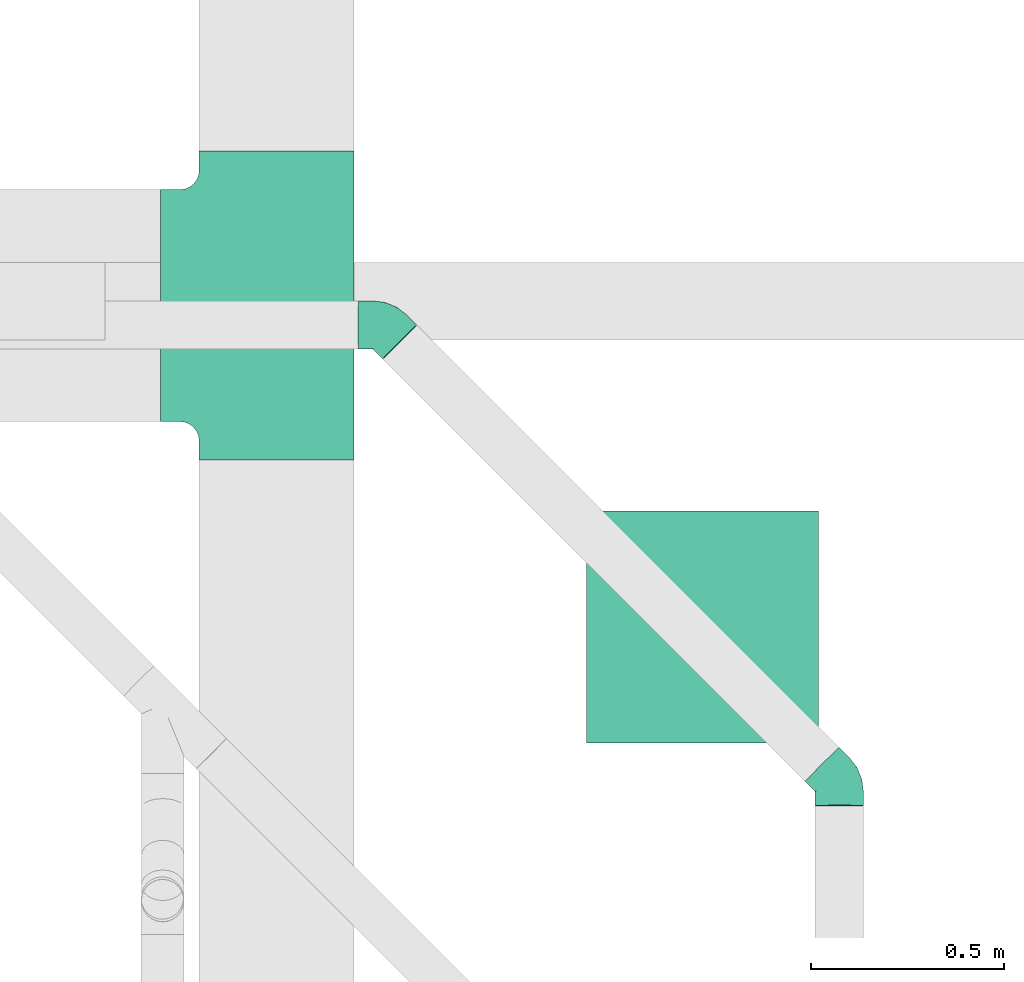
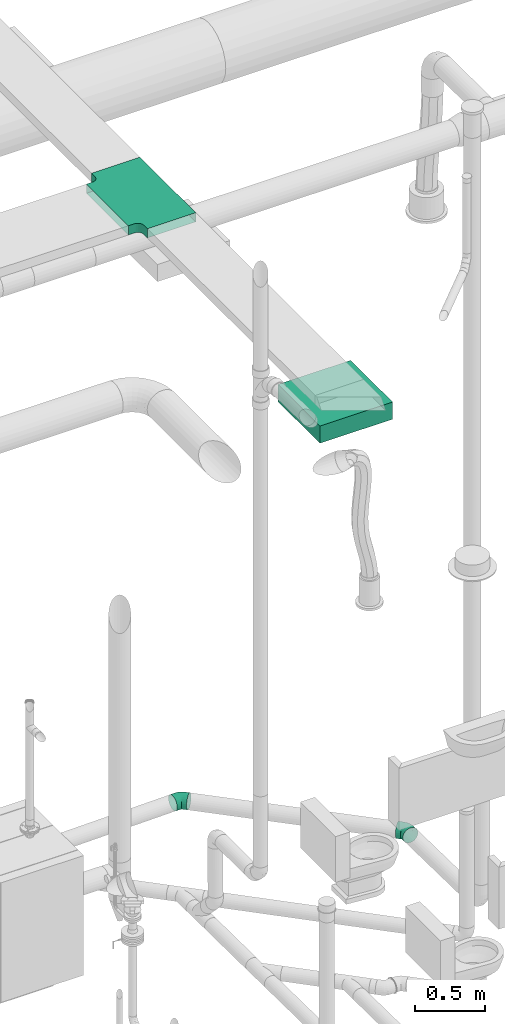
# One storey, part 174 of 374: 2 distribution elements, 2 flow fittings.
"""IFC2X3 building model written with IfcOpenShell, lengths in metres."""

from ifc_helpers import new_model, si_unit, direction, frame, frame_2d, origin, place, context, subcontext, project, spatial, rectangle, extrude, open_shell, surface_model, source, transform, mapped, element, save


model = new_model("IFC2X3")

# Units and contexts
model_context = context("Model", 3, precision=1e-05, world=origin(), true_north=direction((-0.4480736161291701, 0.8939966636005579)))
body_context = subcontext(model_context, "Body", "Model", "MODEL_VIEW")
ifc_project = project(units=[si_unit("LENGTHUNIT", "METRE"), si_unit("AREAUNIT", "SQUARE_METRE"), si_unit("VOLUMEUNIT", "CUBIC_METRE"), si_unit("PLANEANGLEUNIT", "RADIAN"), si_unit("THERMODYNAMICTEMPERATUREUNIT", "KELVIN"), si_unit("MASSUNIT", "GRAM", prefix="KILO"), si_unit("TIMEUNIT", "SECOND")], contexts=[model_context])

# Site, building, storey
site_placement = place(None, origin())
site = spatial("IfcSite", under=ifc_project, at=site_placement, Name="Site 1", CompositionType="ELEMENT")
building_placement = place(site_placement, origin())
building = spatial("IfcBuilding", under=site, at=building_placement, Name="Undefined", CompositionType="ELEMENT")
storey_placement = place(building_placement, origin())
storey = spatial("IfcBuildingStorey", under=building, at=storey_placement, Name="Rez de chauss\x8ee", CompositionType="ELEMENT", Elevation=0.0)

# Distribution element
shared_shape_1 = source(origin(), body_context, "Body", "SurfaceModel", [
    surface_model("IfcFaceBasedSurfaceModel", [(0.0, 0.049999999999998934, 0.0), (0.0, 0.0, 0.0), (0.08000000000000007, 0.0, 5.82867088e-16), (0.08000000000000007, 0.04999999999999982, 0.0), (0.08000000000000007, -0.04999999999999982, 0.04999999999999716), (0.08000000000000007, -0.04829629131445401, 0.03705904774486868), (0.0, -0.04829629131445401, 0.03705904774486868), (0.0, -0.04999999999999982, 0.04999999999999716), (0.08000000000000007, -0.0433012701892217, 0.02499999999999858), (0.0, -0.0433012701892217, 0.02499999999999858), (0.08000000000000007, -0.035355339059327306, 0.014644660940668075), (0.0, -0.035355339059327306, 0.014644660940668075), (0.08000000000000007, -0.025000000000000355, 0.006698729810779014), (0.0, -0.025000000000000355, 0.006698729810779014), (0.08000000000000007, -0.012940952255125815, 0.001703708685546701), (0.0, -0.012940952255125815, 0.001703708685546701), (0.0, -0.04999999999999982, 0.10000000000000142), (0.08000000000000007, -0.04999999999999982, 0.10000000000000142), (0.0, -0.6500000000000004, 0.10000000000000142), (0.0, -0.6500000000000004, 0.04999999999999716), (0.08000000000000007, -0.6500000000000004, 0.04999999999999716), (0.08000000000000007, -0.6500000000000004, 0.10000000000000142), (0.08000000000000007, -0.7000000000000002, 0.0), (0.08000000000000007, -0.6870590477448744, 0.001703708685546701), (0.0, -0.6870590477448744, 0.001703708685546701), (0.0, -0.7000000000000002, 0.0), (0.08000000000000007, -0.6749999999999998, 0.006698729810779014), (0.0, -0.6749999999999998, 0.006698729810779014), (0.08000000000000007, -0.664644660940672, 0.014644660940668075), (0.0, -0.664644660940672, 0.014644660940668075), (0.08000000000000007, -0.6566987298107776, 0.02499999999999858), (0.0, -0.6566987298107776, 0.02499999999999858), (0.08000000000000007, -0.6517037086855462, 0.03705904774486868), (0.0, -0.6517037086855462, 0.03705904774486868), (0.0, -0.75, 0.0), (0.08000000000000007, -0.75, 0.0), (0.0, -0.75, -0.3999999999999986), (0.0, 0.04999999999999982, -0.3999999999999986), (0.08000000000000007, 0.04999999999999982, -0.3999999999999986), (0.08000000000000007, -0.75, -0.3999999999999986)], [open_shell([[[0, 1, 2, 3]], [[4, 5, 6, 7]], [[5, 8, 9, 6]], [[8, 10, 11, 9]], [[10, 12, 13, 11]], [[12, 14, 15, 13]], [[14, 2, 1, 15]], [[7, 16, 17, 4]], [[18, 19, 20, 21]], [[22, 23, 24, 25]], [[23, 26, 27, 24]], [[26, 28, 29, 27]], [[28, 30, 31, 29]], [[30, 32, 33, 31]], [[32, 20, 19, 33]], [[25, 34, 35, 22]], [[36, 37, 38, 39]], [[39, 38, 2]], [[39, 2, 14]], [[39, 14, 12]], [[39, 12, 10]], [[39, 10, 8]], [[39, 8, 5]], [[39, 5, 4]], [[39, 4, 32]], [[39, 32, 30]], [[39, 30, 28]], [[39, 28, 26]], [[39, 26, 23]], [[39, 23, 22]], [[39, 22, 35]], [[4, 17, 21]], [[4, 21, 20]], [[4, 20, 32]], [[2, 38, 3]], [[1, 37, 36]], [[15, 1, 36]], [[13, 15, 36]], [[11, 13, 36]], [[9, 11, 36]], [[6, 9, 36]], [[7, 6, 36]], [[33, 7, 36]], [[31, 33, 36]], [[29, 31, 36]], [[27, 29, 36]], [[24, 27, 36]], [[25, 24, 36]], [[34, 25, 36]], [[18, 16, 7]], [[19, 18, 7]], [[33, 19, 7]], [[0, 37, 1]]])]),
])
distribution_element_1_placement = place(storey_placement, origin())
element("IfcDistributionElement", 1, at=distribution_element_1_placement, inside=storey, Name="Pièce en té", ObjectType="Pièce en té", context=body_context, shape_type="MappedRepresentation", body=[
    mapped(shared_shape_1, transform((57.168996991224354, 15.593637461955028, 4.18), x_axis=(0.0, 0.0, -1.0), y_axis=(0.0, -1.0, 0.0), z_axis=(-1.0, 0.0, 0.0))),
])

# Flow fittings
shared_shape_2 = source(origin(), body_context, "Body", "SurfaceModel", [
    surface_model("IfcFaceBasedSurfaceModel", [(0.0, 0.0163157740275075, 0.0), (0.0, 0.0, 0.0), (0.03640000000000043, 0.0, 0.0), (0.03640000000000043, 0.01631577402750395, -8.8817842e-16), (0.0, -0.015759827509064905, -0.004222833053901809), (0.03640000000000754, -0.01575982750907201, -0.00422283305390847), (0.0, -0.029889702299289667, -0.012380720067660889), (0.03640000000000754, -0.02988970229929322, -0.012380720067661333), (0.0, -0.04142669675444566, -0.02391771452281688), (0.03640000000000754, -0.04142669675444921, -0.023917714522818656), (0.0, -0.04958458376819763, -0.038047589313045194), (0.03640000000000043, -0.04958458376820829, -0.038047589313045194), (0.0, -0.053807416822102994, -0.053807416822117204), (0.03640000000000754, -0.053807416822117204, -0.05380741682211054), (0.0, -0.053807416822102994, -0.07012319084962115), (0.03639999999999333, -0.053807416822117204, -0.07012319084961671), (0.0, -0.04958458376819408, -0.08588301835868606), (0.03640000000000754, -0.04958458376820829, -0.08588301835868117), (0.0, -0.04142669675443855, -0.10001289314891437), (0.03640000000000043, -0.041426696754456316, -0.1000128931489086), (0.0, -0.02988970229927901, -0.11154988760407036), (0.03640000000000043, -0.02988970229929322, -0.11154988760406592), (0.0, -0.015759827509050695, -0.11970777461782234), (0.03640000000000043, -0.015759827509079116, -0.11970777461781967), (0.0, 1.4210854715e-14, -0.12393060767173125), (0.03640000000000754, -1.4210854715e-14, -0.12393060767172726), (0.0, 0.016315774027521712, -0.12393060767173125), (0.03640000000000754, 0.01631577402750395, -0.12393060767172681), (0.0, 0.03207560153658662, -0.11970777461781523), (0.03640000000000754, 0.032075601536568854, -0.11970777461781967), (0.0, 0.04620547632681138, -0.11154988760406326), (0.03640000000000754, 0.04620547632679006, -0.11154988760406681), (0.0, 0.05774247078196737, -0.10001289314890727), (0.03640000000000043, 0.05774247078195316, -0.10001289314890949), (0.0, 0.06590035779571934, -0.08588301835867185), (0.03640000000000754, 0.06590035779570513, -0.08588301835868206), (0.0, 0.0701231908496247, -0.07012319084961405), (0.03640000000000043, 0.07012319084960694, -0.07012319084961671), (0.0, 0.0701231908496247, -0.05380741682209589), (0.03640000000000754, 0.07012319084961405, -0.05380741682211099), (0.0, 0.06590035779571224, -0.03804758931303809), (0.03640000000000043, 0.06590035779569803, -0.03804758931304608), (0.0, 0.05774247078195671, -0.023917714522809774), (0.03640000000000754, 0.057742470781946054, -0.0239177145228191), (0.0, 0.04620547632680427, -0.012380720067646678), (0.03640000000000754, 0.04620547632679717, -0.012380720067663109), (0.0, 0.03207560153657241, -0.004222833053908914), (0.03640000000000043, 0.032075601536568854, -0.00422283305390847), (0.06832402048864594, -0.04964138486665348, -0.07067165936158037), (0.06887509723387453, -0.04956947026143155, -0.054365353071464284), (0.09807338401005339, -0.037427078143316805, -0.0722797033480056), (0.09913799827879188, -0.037144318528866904, -0.056001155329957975), (0.12362157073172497, -0.0179965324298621, -0.07483778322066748), (0.12512720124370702, -0.017378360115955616, -0.05860339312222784), (0.06670834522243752, -0.04562939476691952, -0.08640372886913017), (0.09495209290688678, -0.034033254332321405, -0.08793038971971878), (0.11920728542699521, -0.01558608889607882, -0.09035900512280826), (0.06413817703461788, -0.037806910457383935, -0.100489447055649), (0.08998683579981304, -0.027194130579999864, -0.10188664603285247), (0.11218517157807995, -0.010311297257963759, -0.10410931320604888), (0.060788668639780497, -0.026707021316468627, -0.11196889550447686), (0.08351598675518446, -0.01737578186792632, -0.11319737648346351), (0.10303377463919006, -0.0025316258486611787, -0.11515164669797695), (0.05688808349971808, -0.013086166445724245, -0.12005976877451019), (0.07598052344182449, -0.00524731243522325, -0.1210917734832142), (0.09237674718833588, 0.00722275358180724, -0.1227334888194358), (0.05270224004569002, 0.0021274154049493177, -0.12421068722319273), (0.06789397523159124, 0.008364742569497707, -0.12503184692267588), (0.08094034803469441, 0.018287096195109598, -0.1263381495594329), (0.04851639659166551, 0.017896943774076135, -0.1241387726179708), (0.05980742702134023, 0.02253274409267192, -0.12474908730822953), (0.06950394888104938, 0.029907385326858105, -0.12571997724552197), (0.044615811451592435, 0.03314775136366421, -0.11984892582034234), (0.05227196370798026, 0.036291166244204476, -0.12026276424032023), (0.058846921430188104, 0.04129171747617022, -0.12092109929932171), (0.04126630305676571, 0.04684052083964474, -0.11163349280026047), (0.045801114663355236, 0.04870239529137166, -0.11187861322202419), (0.04969552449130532, 0.05166426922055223, -0.11226855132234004), (0.038696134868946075, 0.05804211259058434, -0.10005234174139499), (0.040835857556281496, 0.058920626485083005, -0.10016800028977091), (0.04267341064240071, 0.060318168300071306, -0.10035199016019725), (0.0370804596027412, 0.06598915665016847, -0.08589470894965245), (0.03771456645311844, 0.06624950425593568, -0.08592898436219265), (0.038259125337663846, 0.06666366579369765, -0.08598350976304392), (0.03652938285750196, 0.07014007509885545, -0.07012541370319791), (0.03664995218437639, 0.07018957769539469, -0.07013193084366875), (0.0367534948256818, 0.07026832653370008, -0.07014229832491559), (0.037080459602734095, 0.07021198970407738, -0.053819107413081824), (0.03771456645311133, 0.07047233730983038, -0.053853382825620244), (0.038259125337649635, 0.07088649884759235, -0.05390790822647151), (0.038696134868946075, 0.06619999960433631, -0.03808703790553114), (0.040835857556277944, 0.06707851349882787, -0.03820269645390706), (0.04267341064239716, 0.06847605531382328, -0.038386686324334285), (0.04126630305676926, 0.05837751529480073, -0.024001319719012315), (0.04580111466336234, 0.060239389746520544, -0.024246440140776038), (0.04969552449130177, 0.06320126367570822, -0.024636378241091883), (0.04461581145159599, 0.04727762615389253, -0.012521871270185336), (0.05227196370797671, 0.050421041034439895, -0.012935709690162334), (0.058846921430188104, 0.055421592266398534, -0.013594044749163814), (0.04851639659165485, 0.03365677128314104, -0.004430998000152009), (0.05980742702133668, 0.038292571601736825, -0.005041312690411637), (0.06950394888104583, 0.045667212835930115, -0.006012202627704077), (0.05270224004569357, 0.018443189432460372, -0.00028007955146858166), (0.06789397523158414, 0.02468051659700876, -0.0011012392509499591), (0.0809403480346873, 0.03460287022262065, -0.0024075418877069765), (0.056888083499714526, 0.00267366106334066, -0.00035199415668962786), (0.07598052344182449, 0.01051251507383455, -0.0013839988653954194), (0.09237674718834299, 0.02298258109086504, -0.0030257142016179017), (0.06078866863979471, -0.012577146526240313, -0.004641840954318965), (0.08351598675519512, -0.003245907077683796, -0.005870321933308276), (0.10303377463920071, 0.01159824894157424, -0.00782459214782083), (0.06413817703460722, -0.02626991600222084, -0.01285727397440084), (0.08998683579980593, -0.015657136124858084, -0.014254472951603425), (0.1121851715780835, 0.0012256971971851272, -0.01647714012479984), (0.06670834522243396, -0.03747150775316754, -0.02443842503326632), (0.09495209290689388, -0.02587536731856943, -0.025965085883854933), (0.11920728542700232, -0.007428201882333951, -0.028393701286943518), (0.06832402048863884, -0.04541855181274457, -0.03859605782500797), (0.09807338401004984, -0.0332042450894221, -0.0402041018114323), (0.12362157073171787, -0.013773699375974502, -0.04276218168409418), (0.14936452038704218, 0.007517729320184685, -0.07819679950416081), (0.15087015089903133, 0.00813590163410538, -0.06196240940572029), (0.14495023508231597, 0.009928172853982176, -0.09371802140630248), (0.1379281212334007, 0.015202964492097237, -0.1074683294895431), (0.12877672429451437, 0.022982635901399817, -0.11851066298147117), (0.11811969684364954, 0.03273701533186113, -0.12609250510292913), (0.10668329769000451, 0.043801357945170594, -0.12969716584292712), (0.09524689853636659, 0.055421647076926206, -0.12907899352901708), (0.0845898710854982, 0.06680597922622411, -0.12428011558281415), (0.07543847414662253, 0.07717853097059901, -0.1156275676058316), (0.06841636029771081, 0.0858324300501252, -0.10371100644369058), (0.06400207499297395, 0.09217792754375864, -0.08934252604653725), (0.06249644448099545, 0.09578258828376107, -0.07350131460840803), (0.0640020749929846, 0.09640076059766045, -0.05726692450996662), (0.06841636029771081, 0.09399031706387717, -0.04174570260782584), (0.07543847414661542, 0.08871552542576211, -0.027995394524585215), (0.0845898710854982, 0.08093585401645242, -0.016953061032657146), (0.09524689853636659, 0.07118147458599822, -0.009371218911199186), (0.10668329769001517, 0.06011713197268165, -0.005766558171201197), (0.11811969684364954, 0.048496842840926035, -0.006384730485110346), (0.12877672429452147, 0.03711251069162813, -0.011183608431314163), (0.13792812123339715, 0.02673995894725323, -0.019836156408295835), (0.14495023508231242, 0.01808605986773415, -0.03175271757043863), (0.14936452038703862, 0.011740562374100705, -0.04612119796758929)], [open_shell([[[0, 1, 2, 3]], [[1, 4, 5, 2]], [[4, 6, 7, 5]], [[6, 8, 9, 7]], [[8, 10, 11, 9]], [[10, 12, 13, 11]], [[12, 14, 15, 13]], [[14, 16, 17, 15]], [[16, 18, 19, 17]], [[18, 20, 21, 19]], [[20, 22, 23, 21]], [[22, 24, 25, 23]], [[24, 26, 27, 25]], [[26, 28, 29, 27]], [[28, 30, 31, 29]], [[30, 32, 33, 31]], [[32, 34, 35, 33]], [[34, 36, 37, 35]], [[36, 38, 39, 37]], [[38, 40, 41, 39]], [[40, 42, 43, 41]], [[42, 44, 45, 43]], [[44, 46, 47, 45]], [[46, 0, 3, 47]], [[13, 15, 48, 49]], [[49, 48, 50, 51]], [[51, 50, 52, 53]], [[15, 17, 54, 48]], [[48, 54, 55, 50]], [[50, 55, 56, 52]], [[17, 19, 57, 54]], [[54, 57, 58, 55]], [[55, 58, 59, 56]], [[19, 21, 60, 57]], [[57, 60, 61, 58]], [[58, 61, 62, 59]], [[21, 23, 63, 60]], [[60, 63, 64, 61]], [[61, 64, 65, 62]], [[23, 25, 66, 63]], [[63, 66, 67, 64]], [[64, 67, 68, 65]], [[25, 27, 69, 66]], [[66, 69, 70, 67]], [[67, 70, 71, 68]], [[27, 29, 72, 69]], [[69, 72, 73, 70]], [[70, 73, 74, 71]], [[29, 31, 75, 72]], [[72, 75, 76, 73]], [[73, 76, 77, 74]], [[31, 33, 78, 75]], [[75, 78, 79, 76]], [[76, 79, 80, 77]], [[33, 35, 81, 78]], [[78, 81, 82, 79]], [[79, 82, 83, 80]], [[35, 37, 84, 81]], [[81, 84, 85, 82]], [[82, 85, 86, 83]], [[37, 39, 87, 84]], [[84, 87, 88, 85]], [[85, 88, 89, 86]], [[39, 41, 90, 87]], [[87, 90, 91, 88]], [[88, 91, 92, 89]], [[41, 43, 93, 90]], [[90, 93, 94, 91]], [[91, 94, 95, 92]], [[43, 45, 96, 93]], [[93, 96, 97, 94]], [[94, 97, 98, 95]], [[45, 47, 99, 96]], [[96, 99, 100, 97]], [[97, 100, 101, 98]], [[47, 3, 102, 99]], [[99, 102, 103, 100]], [[100, 103, 104, 101]], [[3, 2, 105, 102]], [[102, 105, 106, 103]], [[103, 106, 107, 104]], [[2, 5, 108, 105]], [[105, 108, 109, 106]], [[106, 109, 110, 107]], [[5, 7, 111, 108]], [[108, 111, 112, 109]], [[109, 112, 113, 110]], [[7, 9, 114, 111]], [[111, 114, 115, 112]], [[112, 115, 116, 113]], [[9, 11, 117, 114]], [[114, 117, 118, 115]], [[115, 118, 119, 116]], [[11, 13, 49, 117]], [[117, 49, 51, 118]], [[118, 51, 53, 119]], [[53, 52, 120, 121]], [[52, 56, 122, 120]], [[56, 59, 123, 122]], [[59, 62, 124, 123]], [[62, 65, 125, 124]], [[65, 68, 126, 125]], [[68, 71, 127, 126]], [[71, 74, 128, 127]], [[74, 77, 129, 128]], [[77, 80, 130, 129]], [[80, 83, 131, 130]], [[83, 86, 132, 131]], [[86, 89, 133, 132]], [[89, 92, 134, 133]], [[92, 95, 135, 134]], [[95, 98, 136, 135]], [[98, 101, 137, 136]], [[101, 104, 138, 137]], [[104, 107, 139, 138]], [[107, 110, 140, 139]], [[110, 113, 141, 140]], [[113, 116, 142, 141]], [[116, 119, 143, 142]], [[119, 53, 121, 143]]])]),
])
flow_fitting_1_placement = place(storey_placement, origin())
element("IfcFlowFitting", 2, at=flow_fitting_1_placement, inside=storey, Name="PE-HD coude 45°", ObjectType="PE-HD coude 45°", context=body_context, shape_type="MappedRepresentation", body=[
    mapped(shared_shape_2, transform((58.79265525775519, 14.766852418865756, -1.2146040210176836), x_axis=(0.7069654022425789, -0.706965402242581, 0.01999600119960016), y_axis=(-0.7000683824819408, -0.7035271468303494, -0.12228578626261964), z_axis=(0.10051954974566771, 0.07245325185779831, -0.9922934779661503))),
])
shared_shape_3 = source(origin(), body_context, "Body", "SurfaceModel", [
    surface_model("IfcFaceBasedSurfaceModel", [(0.03640000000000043, 0.0, 0.0), (0.03640000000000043, 0.01631577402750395, -8.8817842e-16), (0.0, 0.0163157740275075, 0.0), (0.0, 0.0, 0.0), (0.03640000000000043, 0.032075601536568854, -0.00422283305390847), (0.0, 0.03207560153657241, -0.004222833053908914), (0.03640000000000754, 0.04620547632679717, -0.012380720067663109), (0.0, 0.04620547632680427, -0.012380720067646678), (0.03640000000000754, 0.057742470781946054, -0.0239177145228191), (0.0, 0.05774247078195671, -0.023917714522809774), (0.03640000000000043, 0.06590035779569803, -0.03804758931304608), (0.0, 0.06590035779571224, -0.03804758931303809), (0.03640000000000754, 0.07012319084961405, -0.05380741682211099), (0.0, 0.0701231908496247, -0.05380741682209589), (0.03640000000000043, 0.07012319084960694, -0.07012319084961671), (0.0, 0.0701231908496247, -0.07012319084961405), (0.03640000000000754, 0.06590035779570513, -0.08588301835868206), (0.0, 0.06590035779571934, -0.08588301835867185), (0.03640000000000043, 0.05774247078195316, -0.10001289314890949), (0.0, 0.05774247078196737, -0.10001289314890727), (0.03640000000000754, 0.04620547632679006, -0.11154988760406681), (0.0, 0.04620547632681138, -0.11154988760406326), (0.03640000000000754, 0.032075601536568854, -0.11970777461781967), (0.0, 0.03207560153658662, -0.11970777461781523), (0.03640000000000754, 0.01631577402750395, -0.12393060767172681), (0.0, 0.016315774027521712, -0.12393060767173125), (0.03640000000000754, -1.4210854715e-14, -0.12393060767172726), (0.0, 1.4210854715e-14, -0.12393060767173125), (0.03640000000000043, -0.015759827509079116, -0.11970777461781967), (0.0, -0.015759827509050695, -0.11970777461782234), (0.03640000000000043, -0.02988970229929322, -0.11154988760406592), (0.0, -0.02988970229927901, -0.11154988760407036), (0.03640000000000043, -0.041426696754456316, -0.1000128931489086), (0.0, -0.04142669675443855, -0.10001289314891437), (0.03640000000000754, -0.04958458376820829, -0.08588301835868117), (0.0, -0.04958458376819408, -0.08588301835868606), (0.03639999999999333, -0.053807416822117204, -0.07012319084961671), (0.0, -0.053807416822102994, -0.07012319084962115), (0.03640000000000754, -0.053807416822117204, -0.05380741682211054), (0.0, -0.053807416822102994, -0.053807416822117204), (0.03640000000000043, -0.04958458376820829, -0.038047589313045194), (0.0, -0.04958458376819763, -0.038047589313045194), (0.03640000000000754, -0.04142669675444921, -0.023917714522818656), (0.0, -0.04142669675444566, -0.02391771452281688), (0.03640000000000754, -0.02988970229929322, -0.012380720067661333), (0.0, -0.029889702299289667, -0.012380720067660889), (0.03640000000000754, -0.01575982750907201, -0.00422283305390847), (0.0, -0.015759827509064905, -0.004222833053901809), (-0.03192402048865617, 0.06595715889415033, -0.07067165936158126), (-0.03247509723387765, 0.06588524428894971, -0.054365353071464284), (-0.06167338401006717, 0.05374285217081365, -0.07227970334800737), (-0.06273799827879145, 0.05346009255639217, -0.056001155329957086), (-0.08722157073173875, 0.03431230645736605, -0.07483778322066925), (-0.08872720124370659, 0.033694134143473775, -0.05860339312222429), (-0.030308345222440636, 0.06194516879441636, -0.08640372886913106), (-0.058552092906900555, 0.05034902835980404, -0.08793038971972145), (-0.08280728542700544, 0.03190186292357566, -0.09035900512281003), (-0.027738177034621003, 0.054122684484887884, -0.100489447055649), (-0.05358683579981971, 0.04350990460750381, -0.10188664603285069), (-0.07578517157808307, 0.026627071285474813, -0.10410931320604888), (-0.024388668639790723, 0.04302279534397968, -0.11196889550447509), (-0.04711598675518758, 0.03369155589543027, -0.1131973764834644), (-0.06663377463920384, 0.018847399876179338, -0.11515164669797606), (-0.020488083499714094, 0.029401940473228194, -0.12005976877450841), (-0.039580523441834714, 0.0215630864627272, -0.12109177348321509), (-0.05597674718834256, 0.009093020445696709, -0.12273348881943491), (-0.016302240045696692, 0.014188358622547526, -0.12421068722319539), (-0.031493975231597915, 0.00795103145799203, -0.12503184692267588), (-0.04454034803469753, -0.001971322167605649, -0.126338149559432), (-0.012116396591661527, -0.0015811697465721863, -0.12413877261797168), (-0.023407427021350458, -0.0062169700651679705, -0.12474908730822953), (-0.0331039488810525, -0.013591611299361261, -0.12571997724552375), (-0.00821581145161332, -0.01683197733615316, -0.11984892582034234), (-0.01587196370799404, -0.019975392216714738, -0.12026276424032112), (-0.022446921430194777, -0.02497594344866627, -0.12092109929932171), (-0.004866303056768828, -0.03052474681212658, -0.1116334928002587), (-0.009401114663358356, -0.0323866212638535, -0.11187861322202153), (-0.013295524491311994, -0.03534849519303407, -0.11226855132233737), (-0.0022961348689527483, -0.041726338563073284, -0.1000523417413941), (-0.004435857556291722, -0.04260485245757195, -0.10016800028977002), (-0.006273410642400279, -0.04400239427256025, -0.1003519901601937), (-0.000680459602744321, -0.04967338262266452, -0.08589470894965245), (-0.0013145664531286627, -0.04993373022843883, -0.08592898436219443), (-0.0018591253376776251, -0.05034789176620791, -0.08598350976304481), (-0.0001293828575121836, -0.053824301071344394, -0.07012541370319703), (-0.0002499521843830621, -0.053873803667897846, -0.07013193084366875), (-0.00035349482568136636, -0.05395255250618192, -0.07014229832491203), (-0.0006804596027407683, -0.05389621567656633, -0.05381910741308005), (-0.0013145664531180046, -0.05415656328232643, -0.053853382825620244), (-0.0018591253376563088, -0.05457072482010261, -0.053907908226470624), (-0.002296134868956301, -0.049884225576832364, -0.03808703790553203), (-0.004435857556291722, -0.050762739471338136, -0.03820269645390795), (-0.006273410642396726, -0.05216028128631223, -0.0383866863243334), (-0.004866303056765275, -0.042061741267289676, -0.02400131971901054), (-0.009401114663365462, -0.0439236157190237, -0.02424644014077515), (-0.013295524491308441, -0.046885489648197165, -0.024636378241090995), (-0.008215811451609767, -0.030961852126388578, -0.012521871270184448), (-0.01587196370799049, -0.034105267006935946, -0.012935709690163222), (-0.02244692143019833, -0.03910581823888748, -0.013594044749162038), (-0.012116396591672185, -0.017340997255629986, -0.004430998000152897), (-0.023407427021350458, -0.021976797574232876, -0.005041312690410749), (-0.03310394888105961, -0.029351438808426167, -0.006012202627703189), (-0.01630224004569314, -0.0021274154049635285, -0.0002800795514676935), (-0.03149397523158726, -0.008364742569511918, -0.0011012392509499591), (-0.04454034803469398, -0.018287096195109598, -0.002407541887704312), (-0.02048808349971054, 0.013642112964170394, -0.00035199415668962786), (-0.039580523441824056, 0.005803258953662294, -0.0013839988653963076), (-0.055976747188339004, -0.0066668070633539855, -0.0030257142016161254), (-0.024388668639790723, 0.028892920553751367, -0.004641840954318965), (-0.04711598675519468, 0.01956168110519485, -0.005870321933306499), (-0.06663377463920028, 0.004717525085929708, -0.007824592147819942), (-0.027738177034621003, 0.04258569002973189, -0.012857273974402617), (-0.05358683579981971, 0.03197291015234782, -0.014254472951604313), (-0.07578517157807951, 0.015090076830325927, -0.01647714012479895), (-0.03030834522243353, 0.0537872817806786, -0.024438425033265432), (-0.058552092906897, 0.04219114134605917, -0.02596508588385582), (-0.08280728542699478, 0.023743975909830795, -0.02839370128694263), (-0.03192402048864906, 0.061734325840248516, -0.038596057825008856), (-0.06167338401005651, 0.04952001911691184, -0.04020410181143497), (-0.08722157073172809, 0.03008947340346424, -0.042762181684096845), (-0.11296452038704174, 0.008798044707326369, -0.07819679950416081), (-0.11447015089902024, 0.008179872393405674, -0.0619624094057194), (-0.10855023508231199, 0.0063876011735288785, -0.09371802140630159), (-0.10152812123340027, 0.0011128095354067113, -0.10746832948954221), (-0.09237672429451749, -0.006666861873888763, -0.11851066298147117), (-0.08171969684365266, -0.016421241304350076, -0.12609250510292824), (-0.07028329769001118, -0.027485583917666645, -0.12969716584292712), (-0.05884689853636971, -0.03910587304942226, -0.12907899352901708), (-0.048189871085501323, -0.05049020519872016, -0.12428011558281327), (-0.03903847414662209, -0.060862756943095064, -0.11562756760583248), (-0.032016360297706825, -0.06951665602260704, -0.1037110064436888), (-0.02760207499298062, -0.07586215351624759, -0.08934252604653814), (-0.026096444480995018, -0.07946681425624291, -0.07350131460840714), (-0.02760207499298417, -0.08008498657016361, -0.05726692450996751), (-0.03201636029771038, -0.07767454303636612, -0.04174570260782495), (-0.03903847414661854, -0.07239975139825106, -0.027995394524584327), (-0.048189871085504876, -0.06462007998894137, -0.016953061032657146), (-0.05884689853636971, -0.05486570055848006, -0.009371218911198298), (-0.07028329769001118, -0.0438013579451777, -0.005766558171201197), (-0.0817196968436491, -0.03218106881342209, -0.006384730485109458), (-0.09237672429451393, -0.020796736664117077, -0.011183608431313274), (-0.10152812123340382, -0.01042418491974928, -0.019836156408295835), (-0.10855023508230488, -0.0017702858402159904, -0.03175271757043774), (-0.11296452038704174, 0.004575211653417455, -0.04612119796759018)], [open_shell([[[0, 1, 2, 3]], [[1, 4, 5, 2]], [[4, 6, 7, 5]], [[6, 8, 9, 7]], [[8, 10, 11, 9]], [[10, 12, 13, 11]], [[12, 14, 15, 13]], [[14, 16, 17, 15]], [[16, 18, 19, 17]], [[18, 20, 21, 19]], [[20, 22, 23, 21]], [[22, 24, 25, 23]], [[24, 26, 27, 25]], [[26, 28, 29, 27]], [[28, 30, 31, 29]], [[30, 32, 33, 31]], [[32, 34, 35, 33]], [[34, 36, 37, 35]], [[36, 38, 39, 37]], [[38, 40, 41, 39]], [[40, 42, 43, 41]], [[42, 44, 45, 43]], [[44, 46, 47, 45]], [[46, 0, 3, 47]], [[13, 15, 48, 49]], [[49, 48, 50, 51]], [[51, 50, 52, 53]], [[15, 17, 54, 48]], [[48, 54, 55, 50]], [[50, 55, 56, 52]], [[17, 19, 57, 54]], [[54, 57, 58, 55]], [[55, 58, 59, 56]], [[19, 21, 60, 57]], [[57, 60, 61, 58]], [[58, 61, 62, 59]], [[21, 23, 63, 60]], [[60, 63, 64, 61]], [[61, 64, 65, 62]], [[23, 25, 66, 63]], [[63, 66, 67, 64]], [[64, 67, 68, 65]], [[25, 27, 69, 66]], [[66, 69, 70, 67]], [[67, 70, 71, 68]], [[27, 29, 72, 69]], [[69, 72, 73, 70]], [[70, 73, 74, 71]], [[29, 31, 75, 72]], [[72, 75, 76, 73]], [[73, 76, 77, 74]], [[31, 33, 78, 75]], [[75, 78, 79, 76]], [[76, 79, 80, 77]], [[33, 35, 81, 78]], [[78, 81, 82, 79]], [[79, 82, 83, 80]], [[35, 37, 84, 81]], [[81, 84, 85, 82]], [[82, 85, 86, 83]], [[37, 39, 87, 84]], [[84, 87, 88, 85]], [[85, 88, 89, 86]], [[39, 41, 90, 87]], [[87, 90, 91, 88]], [[88, 91, 92, 89]], [[41, 43, 93, 90]], [[90, 93, 94, 91]], [[91, 94, 95, 92]], [[43, 45, 96, 93]], [[93, 96, 97, 94]], [[94, 97, 98, 95]], [[45, 47, 99, 96]], [[96, 99, 100, 97]], [[97, 100, 101, 98]], [[47, 3, 102, 99]], [[99, 102, 103, 100]], [[100, 103, 104, 101]], [[3, 2, 105, 102]], [[102, 105, 106, 103]], [[103, 106, 107, 104]], [[2, 5, 108, 105]], [[105, 108, 109, 106]], [[106, 109, 110, 107]], [[5, 7, 111, 108]], [[108, 111, 112, 109]], [[109, 112, 113, 110]], [[7, 9, 114, 111]], [[111, 114, 115, 112]], [[112, 115, 116, 113]], [[9, 11, 117, 114]], [[114, 117, 118, 115]], [[115, 118, 119, 116]], [[11, 13, 49, 117]], [[117, 49, 51, 118]], [[118, 51, 53, 119]], [[53, 52, 120, 121]], [[52, 56, 122, 120]], [[56, 59, 123, 122]], [[59, 62, 124, 123]], [[62, 65, 125, 124]], [[65, 68, 126, 125]], [[68, 71, 127, 126]], [[71, 74, 128, 127]], [[74, 77, 129, 128]], [[77, 80, 130, 129]], [[80, 83, 131, 130]], [[83, 86, 132, 131]], [[86, 89, 133, 132]], [[89, 92, 134, 133]], [[92, 95, 135, 134]], [[95, 98, 136, 135]], [[98, 101, 137, 136]], [[101, 104, 138, 137]], [[104, 107, 139, 138]], [[107, 110, 140, 139]], [[110, 113, 141, 140]], [[113, 116, 142, 141]], [[116, 119, 143, 142]], [[119, 53, 121, 143]]])]),
])
flow_fitting_2_placement = place(storey_placement, origin())
element("IfcFlowFitting", 3, at=flow_fitting_2_placement, inside=storey, Name="PE-HD coude 45°", ObjectType="PE-HD coude 45°", context=body_context, shape_type="MappedRepresentation", body=[
    mapped(shared_shape_3, transform((57.61880129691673, 15.89318562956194, -1.249282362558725), x_axis=(-0.9998000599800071, 0.0, -0.01999600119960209), y_axis=(-0.0024457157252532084, 0.9924919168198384, 0.1222857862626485), z_axis=(0.019845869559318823, 0.12231024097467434, -0.9922934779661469))),
])

# Distribution element
distribution_element_2_placement = place(storey_placement, origin())
element("IfcDistributionElement", 4, at=distribution_element_2_placement, inside=storey, Name="Decken-Rechteckleuchte mit Rahmen AP", ObjectType="Decken-Rechteckleuchte mit Rahmen AP", context=body_context, shape_type="SweptSolid", body=[
    extrude(rectangle(XDim=0.6000000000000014, YDim=0.6000000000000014, at=frame_2d((3.552713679e-15, 0.0), x_axis=(0.0, 1.0))), frame((58.47136596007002, 15.1125, 2.5500000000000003), z_axis=(0.0, 0.0, -1.0), x_axis=(1.0, 0.0, 0.0)), (0.0, 0.0, 1.0), 0.15),
])

save(model, "model.ifc")
